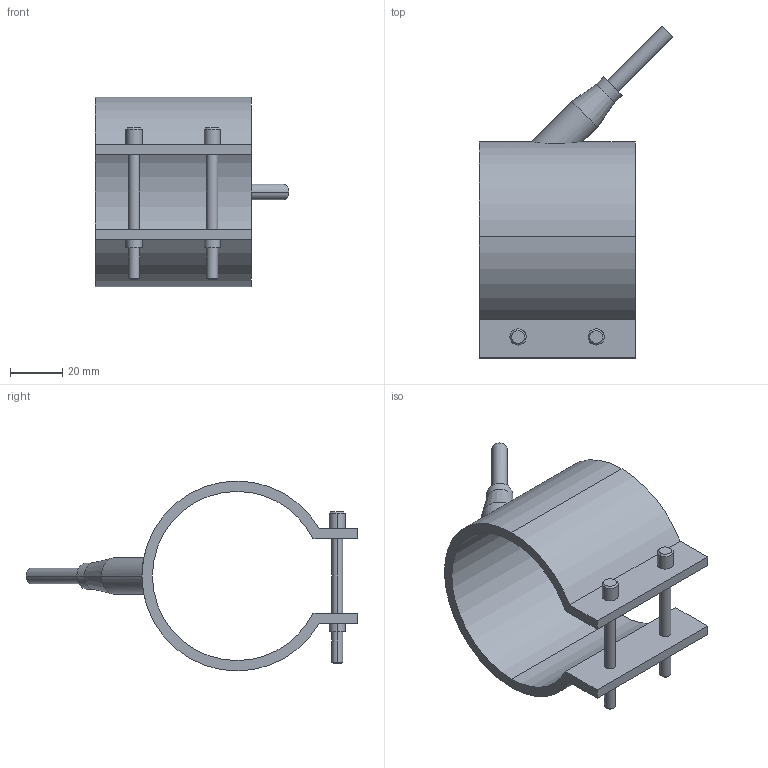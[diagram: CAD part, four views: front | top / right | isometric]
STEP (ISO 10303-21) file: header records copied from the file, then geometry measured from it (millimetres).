
FILE_DESCRIPTION(('CATIA V5 STEP Exchange'),'2;1');
FILE_NAME('C:\Users\Utente\Desktop\IO LAVORO\3D X SITO CF\X SITO\PLASTICA\RF1\29065060.stp','2021-03-27T09:45:52+00:00',('none'),('none'),'CATIA Version 5 Release 20 GA (IN-10)','CATIA V5 STEP AP203','none');
FILE_SCHEMA(('CONFIG_CONTROL_DESIGN'));
Length unit declared in the file: millimetre
Products named in the file (1): 29065060
Bounding box: 74.55 x 127.55 x 73 mm (x, y, z)
Volume: 58187 mm3; surface area: 31073.1 mm2
Topology: 1 solids, 1 shells, 54 faces, 126 edges, 82 vertices
Faces by surface type: cylinder 28, plane 16, cone 10
Entity records: 1758 total; most frequent: CARTESIAN_POINT 513, ORIENTED_EDGE 252, DIRECTION 212, EDGE_CURVE 126, AXIS2_PLACEMENT_3D 105, VERTEX_POINT 82, EDGE_LOOP 66, VECTOR 56
